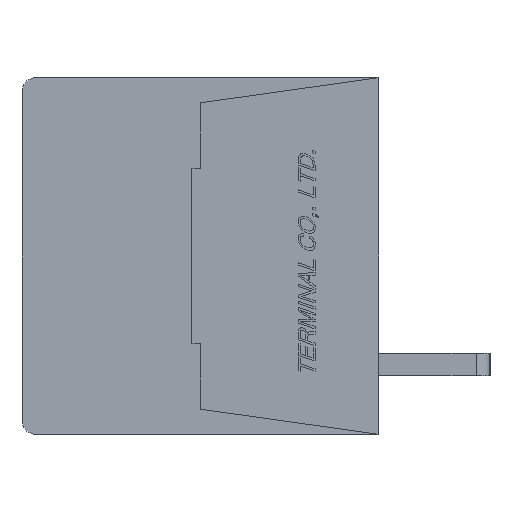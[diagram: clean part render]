
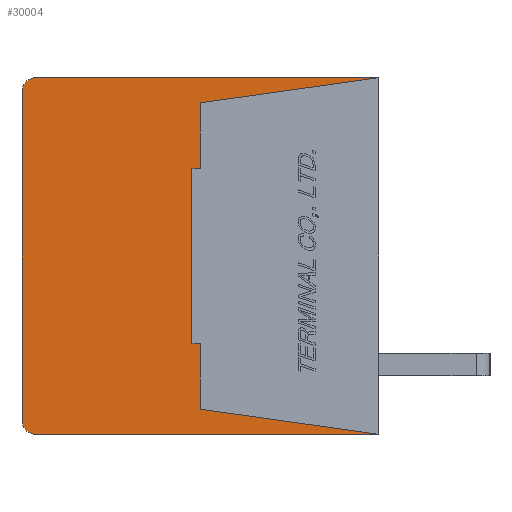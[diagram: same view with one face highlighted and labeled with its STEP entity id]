
A CAD part, left-side view. The second image highlights one B-rep face of the part: STEP entity #30004.
In plain terms, the highlighted planar face has unit normal (-1, 0, 0).
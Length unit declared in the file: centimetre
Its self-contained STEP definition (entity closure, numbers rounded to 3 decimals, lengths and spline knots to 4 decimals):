
#1563=CIRCLE('',#51244,0.05);
#1564=CIRCLE('',#51247,0.05);
#2846=VERTEX_POINT('',#42071);
#2847=VERTEX_POINT('',#42073);
#2848=VERTEX_POINT('',#42077);
#2849=VERTEX_POINT('',#42081);
#2850=VERTEX_POINT('',#42085);
#2851=VERTEX_POINT('',#42089);
#2852=VERTEX_POINT('',#42092);
#2853=VERTEX_POINT('',#42094);
#2854=VERTEX_POINT('',#42096);
#2855=VERTEX_POINT('',#42098);
#2856=VERTEX_POINT('',#42100);
#2857=VERTEX_POINT('',#42102);
#5975=VECTOR('',#34796,1.);
#5979=VECTOR('',#34805,1.);
#5982=VECTOR('',#34813,1.);
#5983=VECTOR('',#34814,1.);
#5984=VECTOR('',#34815,1.);
#5985=VECTOR('',#34816,1.);
#5986=VECTOR('',#34817,1.);
#5987=VECTOR('',#34818,1.);
#5988=VECTOR('',#34819,1.);
#5989=VECTOR('',#34820,1.);
#9506=LINE('',#42072,#5975);
#9510=LINE('',#42082,#5979);
#9513=LINE('',#42090,#5982);
#9514=LINE('',#42091,#5983);
#9515=LINE('',#42093,#5984);
#9516=LINE('',#42095,#5985);
#9517=LINE('',#42097,#5986);
#9518=LINE('',#42099,#5987);
#9519=LINE('',#42101,#5988);
#9520=LINE('',#42103,#5989);
#13487=EDGE_CURVE('',#2847,#2846,#9506,.T.);
#13490=EDGE_CURVE('',#2848,#2846,#1563,.T.);
#13492=EDGE_CURVE('',#2848,#2849,#9510,.T.);
#13494=EDGE_CURVE('',#2850,#2849,#1564,.T.);
#13496=EDGE_CURVE('',#2850,#2851,#9513,.T.);
#13497=EDGE_CURVE('',#2852,#2847,#9514,.T.);
#13498=EDGE_CURVE('',#2851,#2853,#9515,.T.);
#13499=EDGE_CURVE('',#2853,#2854,#9516,.T.);
#13500=EDGE_CURVE('',#2854,#2855,#9517,.T.);
#13501=EDGE_CURVE('',#2855,#2856,#9518,.T.);
#13502=EDGE_CURVE('',#2856,#2857,#9519,.T.);
#13503=EDGE_CURVE('',#2857,#2852,#9520,.T.);
#19590=ORIENTED_EDGE('',*,*,#13497,.T.);
#19591=ORIENTED_EDGE('',*,*,#13487,.T.);
#19592=ORIENTED_EDGE('',*,*,#13490,.F.);
#19593=ORIENTED_EDGE('',*,*,#13492,.T.);
#19594=ORIENTED_EDGE('',*,*,#13494,.F.);
#19595=ORIENTED_EDGE('',*,*,#13496,.T.);
#19596=ORIENTED_EDGE('',*,*,#13498,.T.);
#19597=ORIENTED_EDGE('',*,*,#13499,.T.);
#19598=ORIENTED_EDGE('',*,*,#13500,.T.);
#19599=ORIENTED_EDGE('',*,*,#13501,.T.);
#19600=ORIENTED_EDGE('',*,*,#13502,.T.);
#19601=ORIENTED_EDGE('',*,*,#13503,.T.);
#26158=EDGE_LOOP('',(#19590,#19591,#19592,#19593,#19594,#19595,#19596,#19597,
#19598,#19599,#19600,#19601));
#28123=FACE_BOUND('',#26158,.T.);
#30004=ADVANCED_FACE('',(#28123),#31606,.F.);
#31606=PLANE('',#51241);
#34682=DIRECTION('',(1.,0.,0.));
#34796=DIRECTION('',(0.,1.,0.));
#34801=DIRECTION('',(1.,0.,0.));
#34802=DIRECTION('',(0.,0.,-0.05));
#34805=DIRECTION('',(0.,0.,-1.));
#34809=DIRECTION('',(1.,0.,0.));
#34810=DIRECTION('',(0.,0.,-0.05));
#34813=DIRECTION('',(0.,-1.,0.));
#34814=DIRECTION('',(0.,-0.99,0.139));
#34815=DIRECTION('',(0.,0.99,0.139));
#34816=DIRECTION('',(0.,0.,1.));
#34817=DIRECTION('',(0.,1.,0.));
#34818=DIRECTION('',(0.,0.,1.));
#34819=DIRECTION('',(0.,-1.,0.));
#34820=DIRECTION('',(0.,0.,1.));
#41638=CARTESIAN_POINT('',(-0.889,0.6345,0.));
#42071=CARTESIAN_POINT('',(-0.889,1.23,0.64));
#42072=CARTESIAN_POINT('',(-0.889,0.,0.64));
#42073=CARTESIAN_POINT('',(-0.889,0.,0.64));
#42077=CARTESIAN_POINT('',(-0.889,1.28,0.59));
#42078=CARTESIAN_POINT('',(-0.889,1.23,0.59));
#42081=CARTESIAN_POINT('',(-0.889,1.28,-0.59));
#42082=CARTESIAN_POINT('',(-0.889,1.28,0.59));
#42085=CARTESIAN_POINT('',(-0.889,1.23,-0.64));
#42086=CARTESIAN_POINT('',(-0.889,1.23,-0.59));
#42089=CARTESIAN_POINT('',(-0.889,0.,-0.64));
#42090=CARTESIAN_POINT('',(-0.889,1.23,-0.64));
#42091=CARTESIAN_POINT('',(-0.889,0.64,0.55));
#42092=CARTESIAN_POINT('',(-0.889,0.64,0.55));
#42093=CARTESIAN_POINT('',(-0.889,0.,-0.64));
#42094=CARTESIAN_POINT('',(-0.889,0.64,-0.55));
#42095=CARTESIAN_POINT('',(-0.889,0.64,-0.55));
#42096=CARTESIAN_POINT('',(-0.889,0.64,-0.315));
#42097=CARTESIAN_POINT('',(-0.889,0.64,-0.315));
#42098=CARTESIAN_POINT('',(-0.889,0.67,-0.315));
#42099=CARTESIAN_POINT('',(-0.889,0.67,-0.315));
#42100=CARTESIAN_POINT('',(-0.889,0.67,0.315));
#42101=CARTESIAN_POINT('',(-0.889,0.67,0.315));
#42102=CARTESIAN_POINT('',(-0.889,0.64,0.315));
#42103=CARTESIAN_POINT('',(-0.889,0.64,0.315));
#51241=AXIS2_PLACEMENT_3D('',#41638,#34682,$);
#51244=AXIS2_PLACEMENT_3D('',#42078,#34801,#34802);
#51247=AXIS2_PLACEMENT_3D('',#42086,#34809,#34810);
